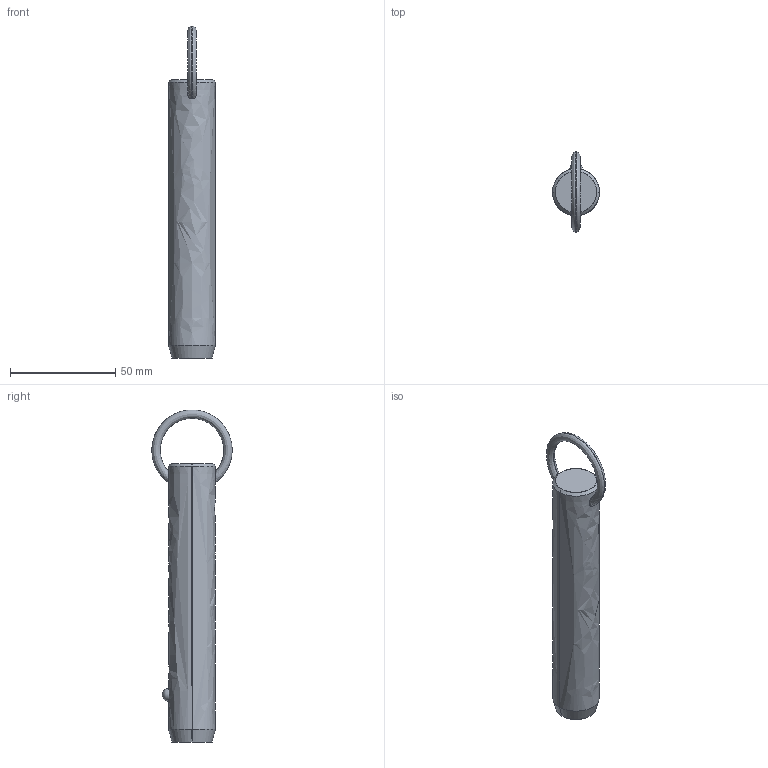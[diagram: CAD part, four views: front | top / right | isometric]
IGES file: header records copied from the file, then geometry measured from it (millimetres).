
Start section: SolidWorks IGES file using analytic representation for surfaces
Global section: file name: C:\Users\liam_\OneDrive\Documents\WORK\Work for WixRoyd\Job Files\J-00019 - Matt Davis CAD Checking\04. CAD Drawings\automotion20190605\P1250.2_v2\P1250.2_v2_20190729_IGES\P1250.087-370.igs; native system: SolidWorks 2017; preprocessor: SolidWorks 2017; author: liam_; date: 190730.001028; units: millimetre
Bounding box: 22.2 x 38.1 x 157.49 mm (x, y, z)
Surface area: 10856.9 mm2 (no closed solid volume)
Topology: 0 solids, 0 shells, 12 faces, 302 edges, 300 vertices
Faces by surface type: revolution 8, bspline 4
